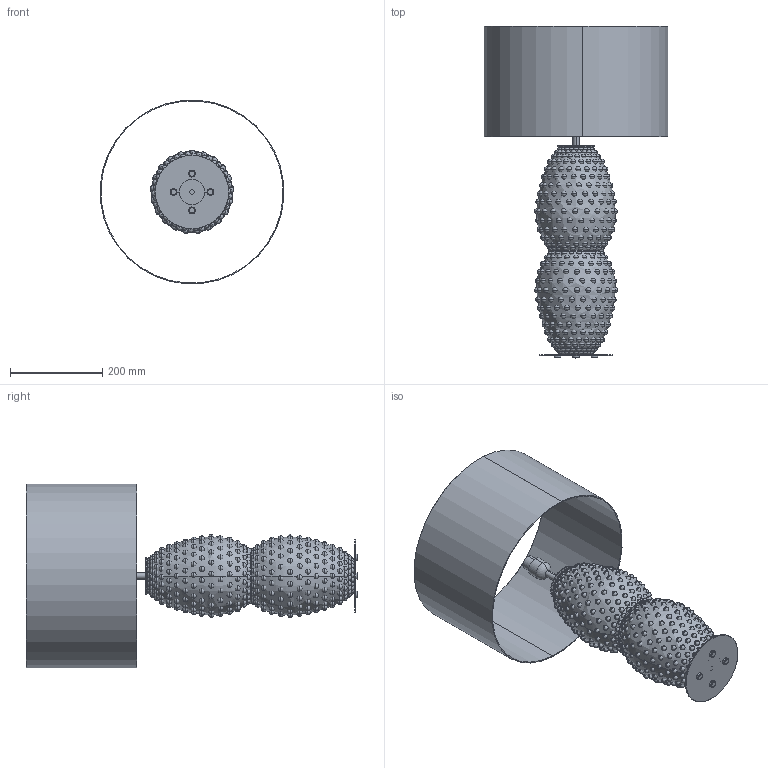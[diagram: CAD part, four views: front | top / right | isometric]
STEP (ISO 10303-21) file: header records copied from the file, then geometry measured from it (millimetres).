
FILE_DESCRIPTION (( 'STEP AP214' ), '1' );
FILE_NAME ('NAC135_2_B_CACTUS.STEP', '2024-02-05T11:53:59', ( '' ), ( '' ), 'SwSTEP 2.0', 'SolidWorks 2018', '' );
FILE_SCHEMA (( 'AUTOMOTIVE_DESIGN' ));
Length unit declared in the file: millimetre
Products named in the file (2): NAC135_2_B_CACTUS
Bounding box: 398.94 x 721 x 398.94 mm (x, y, z)
Volume: 2247603.8 mm3; surface area: 1363019.4 mm2
Topology: 640 solids, 640 shells, 1347 faces, 4570 edges, 3248 vertices
Faces by surface type: sphere 1260, torus 26, plane 25, cylinder 20, bspline 8, cone 8
Entity records: 49193 total; most frequent: DIRECTION 5478, CARTESIAN_POINT 5349, ORIENTED_EDGE 2840, AXIS2_PLACEMENT_3D 2725, UNCERTAINTY_MEASURE_WITH_UNIT 1989, SURFACE_SIDE_STYLE 1988, MECHANICAL_DESIGN_GEOMETRIC_PRESENTATION_REPRESENTATION 1988, FILL_AREA_STYLE_COLOUR 1988
